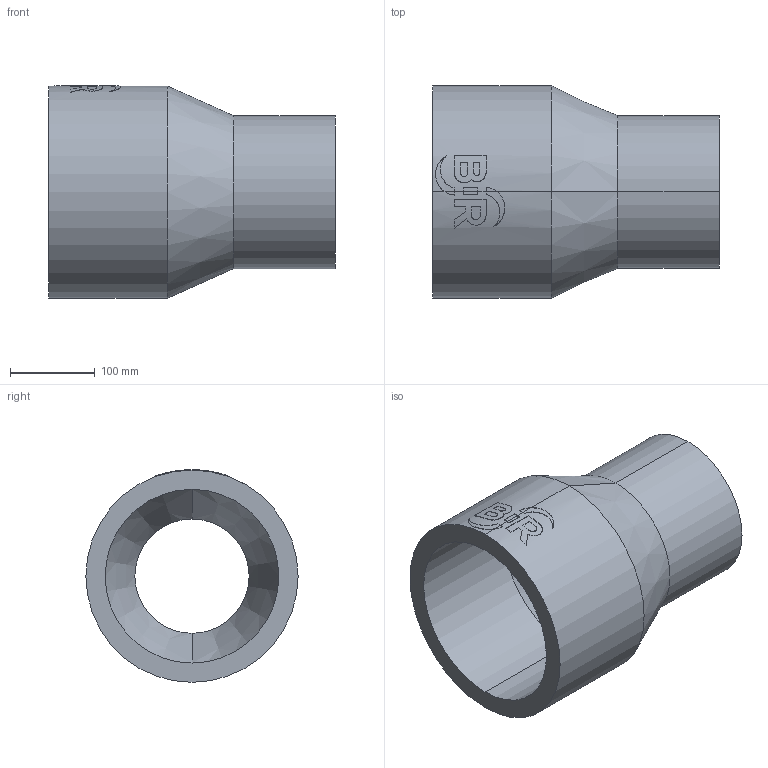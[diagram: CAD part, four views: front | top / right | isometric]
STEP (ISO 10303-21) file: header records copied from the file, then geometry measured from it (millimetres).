
FILE_DESCRIPTION (( 'STEP AP214' ), '1' );
FILE_NAME ('2323211815.STEP', '2018-07-20T10:03:04', ( '' ), ( '' ), 'SwSTEP 2.0', 'SolidWorks 2017', '' );
FILE_SCHEMA (( 'AUTOMOTIVE_DESIGN' ));
Length unit declared in the file: millimetre
Products named in the file (1): 2323211815
Bounding box: 338 x 250 x 250.46 mm (x, y, z)
Volume: 4776936.5 mm3; surface area: 448541 mm2
Topology: 1 solids, 1 shells, 63 faces, 160 edges, 104 vertices
Faces by surface type: cylinder 31, plane 28, cone 4
Entity records: 3357 total; most frequent: CARTESIAN_POINT 1148, ORIENTED_EDGE 320, DIRECTION 296, EDGE_CURVE 160, AXIS2_PLACEMENT_3D 112, VERTEX_POINT 104, LINE 72, VECTOR 72
